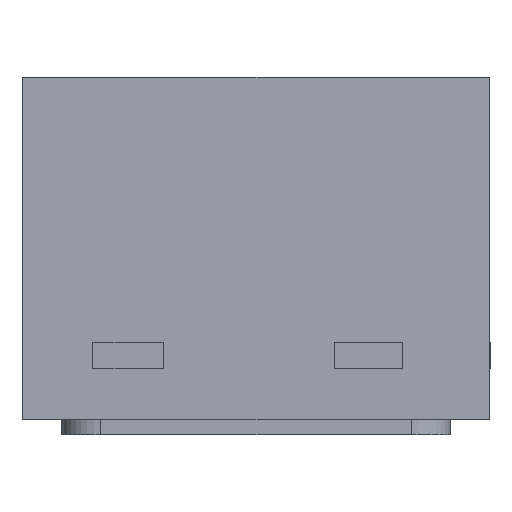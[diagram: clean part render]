
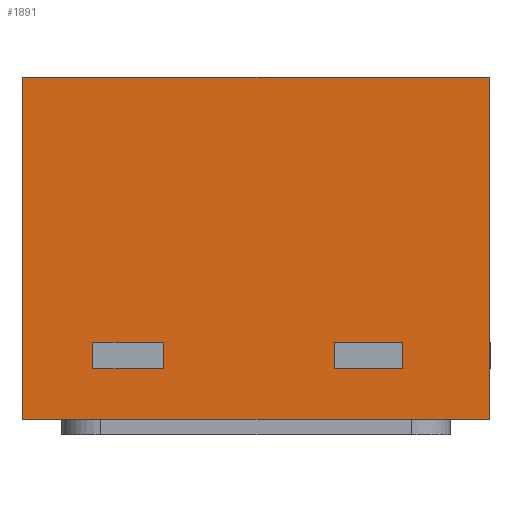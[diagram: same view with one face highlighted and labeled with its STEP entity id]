
A CAD part, left-side view. The second image highlights one B-rep face of the part: STEP entity #1891.
In plain terms, the highlighted planar face has unit normal (-1, 0, 0).
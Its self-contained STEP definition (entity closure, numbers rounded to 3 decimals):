
#542 = VERTEX_POINT('',#543);
#543 = CARTESIAN_POINT('',(-0.5,0.3,
    0.02));
#549 = EDGE_CURVE('',#550,#542,#552,.T.);
#550 = VERTEX_POINT('',#551);
#551 = CARTESIAN_POINT('',(-0.5,0.3,0.46
    ));
#552 = LINE('',#553,#554);
#553 = CARTESIAN_POINT('',(-0.5,0.3,0.46
    ));
#554 = VECTOR('',#555,1.);
#555 = DIRECTION('',(-0.,-0.,-1.));
#1711 = VERTEX_POINT('',#1712);
#1712 = CARTESIAN_POINT('',(-0.5,-0.3,
    0.02));
#1718 = EDGE_CURVE('',#542,#1711,#1719,.T.);
#1719 = LINE('',#1720,#1721);
#1720 = CARTESIAN_POINT('',(-0.5,-0.3,
    0.02));
#1721 = VECTOR('',#1722,1.);
#1722 = DIRECTION('',(0.,-1.,0.));
#1891 = ADVANCED_FACE('',(#1892,#1926,#1960),#1978,.F.);
#1892 = FACE_BOUND('',#1893,.T.);
#1893 = EDGE_LOOP('',(#1894,#1904,#1912,#1920));
#1894 = ORIENTED_EDGE('',*,*,#1895,.T.);
#1895 = EDGE_CURVE('',#1896,#1898,#1900,.T.);
#1896 = VERTEX_POINT('',#1897);
#1897 = CARTESIAN_POINT('',(-0.5,-0.188,
    0.119));
#1898 = VERTEX_POINT('',#1899);
#1899 = CARTESIAN_POINT('',(-0.5,-0.188,
    0.085));
#1900 = LINE('',#1901,#1902);
#1901 = CARTESIAN_POINT('',(-0.5,-0.188,
    0.46));
#1902 = VECTOR('',#1903,1.);
#1903 = DIRECTION('',(0.,0.,-1.));
#1904 = ORIENTED_EDGE('',*,*,#1905,.T.);
#1905 = EDGE_CURVE('',#1898,#1906,#1908,.T.);
#1906 = VERTEX_POINT('',#1907);
#1907 = CARTESIAN_POINT('',(-0.5,-0.1,
    0.085));
#1908 = LINE('',#1909,#1910);
#1909 = CARTESIAN_POINT('',(-0.5,-0.3,
    0.085));
#1910 = VECTOR('',#1911,1.);
#1911 = DIRECTION('',(0.,1.,0.));
#1912 = ORIENTED_EDGE('',*,*,#1913,.T.);
#1913 = EDGE_CURVE('',#1906,#1914,#1916,.T.);
#1914 = VERTEX_POINT('',#1915);
#1915 = CARTESIAN_POINT('',(-0.5,-0.1,
    0.119));
#1916 = LINE('',#1917,#1918);
#1917 = CARTESIAN_POINT('',(-0.5,-0.1,
    0.46));
#1918 = VECTOR('',#1919,1.);
#1919 = DIRECTION('',(0.,0.,1.));
#1920 = ORIENTED_EDGE('',*,*,#1921,.T.);
#1921 = EDGE_CURVE('',#1914,#1896,#1922,.T.);
#1922 = LINE('',#1923,#1924);
#1923 = CARTESIAN_POINT('',(-0.5,-0.3,
    0.119));
#1924 = VECTOR('',#1925,1.);
#1925 = DIRECTION('',(0.,-1.,0.));
#1926 = FACE_BOUND('',#1927,.T.);
#1927 = EDGE_LOOP('',(#1928,#1938,#1946,#1954));
#1928 = ORIENTED_EDGE('',*,*,#1929,.T.);
#1929 = EDGE_CURVE('',#1930,#1932,#1934,.T.);
#1930 = VERTEX_POINT('',#1931);
#1931 = CARTESIAN_POINT('',(-0.5,0.119,0.119
    ));
#1932 = VERTEX_POINT('',#1933);
#1933 = CARTESIAN_POINT('',(-0.5,0.119,
    0.085));
#1934 = LINE('',#1935,#1936);
#1935 = CARTESIAN_POINT('',(-0.5,0.119,0.46
    ));
#1936 = VECTOR('',#1937,1.);
#1937 = DIRECTION('',(0.,0.,-1.));
#1938 = ORIENTED_EDGE('',*,*,#1939,.T.);
#1939 = EDGE_CURVE('',#1932,#1940,#1942,.T.);
#1940 = VERTEX_POINT('',#1941);
#1941 = CARTESIAN_POINT('',(-0.5,0.21,
    0.085));
#1942 = LINE('',#1943,#1944);
#1943 = CARTESIAN_POINT('',(-0.5,-0.3,
    0.085));
#1944 = VECTOR('',#1945,1.);
#1945 = DIRECTION('',(0.,1.,0.));
#1946 = ORIENTED_EDGE('',*,*,#1947,.T.);
#1947 = EDGE_CURVE('',#1940,#1948,#1950,.T.);
#1948 = VERTEX_POINT('',#1949);
#1949 = CARTESIAN_POINT('',(-0.5,0.21,
    0.119));
#1950 = LINE('',#1951,#1952);
#1951 = CARTESIAN_POINT('',(-0.5,0.21,
    0.46));
#1952 = VECTOR('',#1953,1.);
#1953 = DIRECTION('',(0.,0.,1.));
#1954 = ORIENTED_EDGE('',*,*,#1955,.T.);
#1955 = EDGE_CURVE('',#1948,#1930,#1956,.T.);
#1956 = LINE('',#1957,#1958);
#1957 = CARTESIAN_POINT('',(-0.5,-0.3,
    0.119));
#1958 = VECTOR('',#1959,1.);
#1959 = DIRECTION('',(0.,-1.,0.));
#1960 = FACE_BOUND('',#1961,.T.);
#1961 = EDGE_LOOP('',(#1962,#1963,#1971,#1977));
#1962 = ORIENTED_EDGE('',*,*,#1718,.T.);
#1963 = ORIENTED_EDGE('',*,*,#1964,.F.);
#1964 = EDGE_CURVE('',#1965,#1711,#1967,.T.);
#1965 = VERTEX_POINT('',#1966);
#1966 = CARTESIAN_POINT('',(-0.5,-0.3,
    0.46));
#1967 = LINE('',#1968,#1969);
#1968 = CARTESIAN_POINT('',(-0.5,-0.3,
    0.46));
#1969 = VECTOR('',#1970,1.);
#1970 = DIRECTION('',(-0.,-0.,-1.));
#1971 = ORIENTED_EDGE('',*,*,#1972,.F.);
#1972 = EDGE_CURVE('',#550,#1965,#1973,.T.);
#1973 = LINE('',#1974,#1975);
#1974 = CARTESIAN_POINT('',(-0.5,-0.3,
    0.46));
#1975 = VECTOR('',#1976,1.);
#1976 = DIRECTION('',(0.,-1.,0.));
#1977 = ORIENTED_EDGE('',*,*,#549,.T.);
#1978 = PLANE('',#1979);
#1979 = AXIS2_PLACEMENT_3D('',#1980,#1981,#1982);
#1980 = CARTESIAN_POINT('',(-0.5,-0.3,
    0.46));
#1981 = DIRECTION('',(1.,0.,0.));
#1982 = DIRECTION('',(0.,1.,0.));
